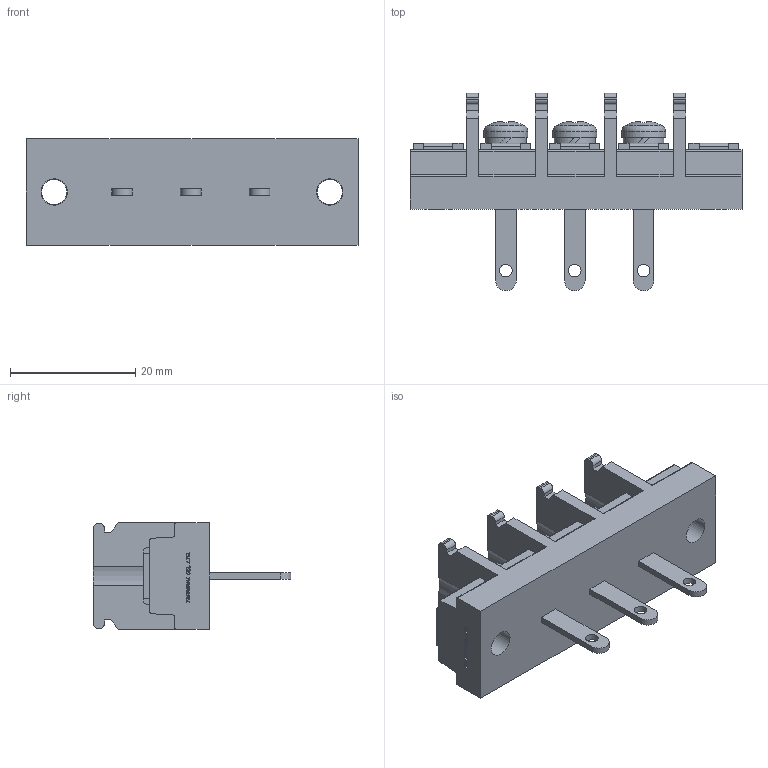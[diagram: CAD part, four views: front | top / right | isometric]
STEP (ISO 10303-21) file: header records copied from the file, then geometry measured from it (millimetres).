
FILE_DESCRIPTION(/* description */ ('Alibre Inc.'),/* implementation_level */ '2;1');
FILE_NAME(/* name */ 'export0',/* time_stamp */ '2015-10-19T19:13:39+09:00',/* author */ (''),/* organization */ (''),/* preprocessor_version */ 'ST-DEVELOPER v14',/* originating_system */ 'Alibre',/* authorisation */ '');
FILE_SCHEMA (('CONFIG_CONTROL_DESIGN'));
Length unit declared in the file: centimetre
Products named in the file (1): ID_1
Bounding box: 53 x 31.5 x 17 mm (x, y, z)
Volume: 9289.6 mm3; surface area: 5627.7 mm2
Topology: 1 solids, 1 shells, 672 faces, 1847 edges, 1230 vertices
Faces by surface type: plane 474, bspline 104, cylinder 73, cone 12, torus 6, sphere 3
Full cylindrical faces by diameter (mm): 2 x3, 4 x5, 4.2 x2, 6.5 x3, 7 x3
Entity records: 20714 total; most frequent: CARTESIAN_POINT 4718, ORIENTED_EDGE 3628, DIRECTION 2462, EDGE_CURVE 1814, VECTOR 1342, LINE 1342, VERTEX_POINT 1216, AXIS2_PLACEMENT_3D 792
